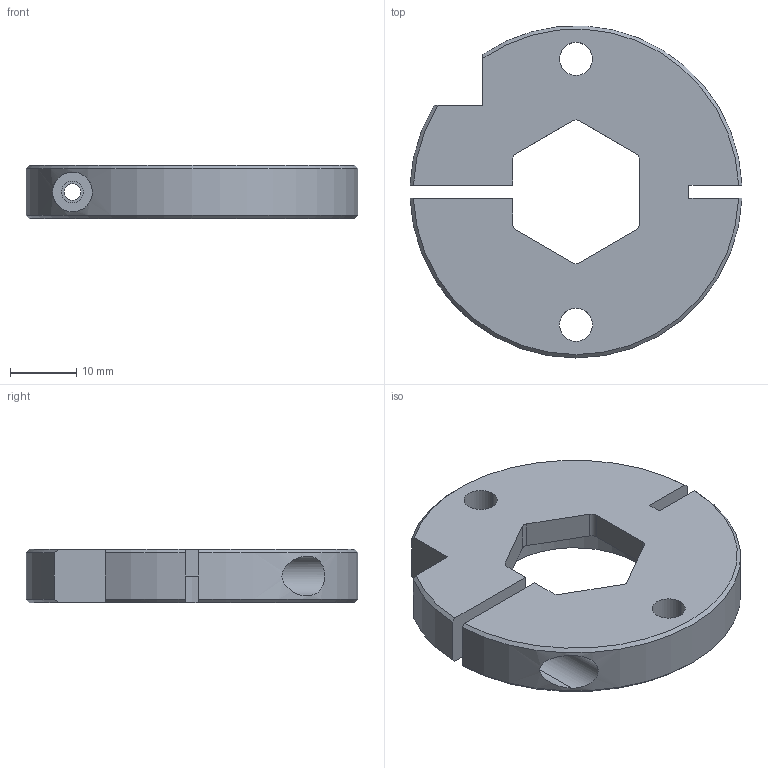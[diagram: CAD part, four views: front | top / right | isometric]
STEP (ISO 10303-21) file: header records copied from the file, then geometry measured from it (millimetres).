
FILE_DESCRIPTION (( 'STEP AP214' ), '1' );
FILE_NAME ('C_200310.STEP', '2013-07-24T13:49:23', ( '' ), ( '' ), 'SwSTEP 2.0', 'SolidWorks 2011', '' );
FILE_SCHEMA (( 'AUTOMOTIVE_DESIGN' ));
Length unit declared in the file: millimetre
Products named in the file (1): C_200310
Bounding box: 49.96 x 49.96 x 8 mm (x, y, z)
Volume: 10959.6 mm3; surface area: 5739.9 mm2
Topology: 1 solids, 1 shells, 44 faces, 123 edges, 82 vertices
Faces by surface type: cylinder 20, plane 18, cone 6
Entity records: 1619 total; most frequent: CARTESIAN_POINT 350, ORIENTED_EDGE 246, DIRECTION 243, EDGE_CURVE 123, AXIS2_PLACEMENT_3D 89, VERTEX_POINT 82, VECTOR 65, LINE 65
